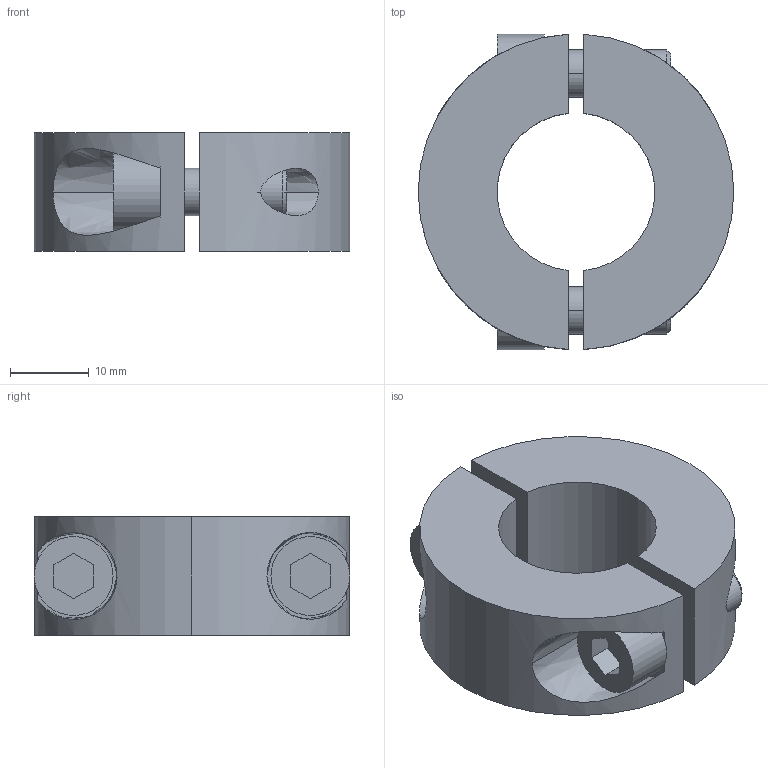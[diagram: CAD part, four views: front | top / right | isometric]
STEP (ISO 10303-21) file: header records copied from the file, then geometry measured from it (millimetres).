
FILE_DESCRIPTION (( 'STEP AP214' ), '1' );
FILE_NAME ('bague d''arret D20.STEP', '2017-04-06T07:50:58', ( '' ), ( '' ), 'SwSTEP 2.0', 'SolidWorks 2016', '' );
FILE_SCHEMA (( 'AUTOMOTIVE_DESIGN' ));
Length unit declared in the file: millimetre
Products named in the file (5): f2-320-20_01; f2-320-20_03; bague d''arret D20; f2-320-20_04; f2-320-20_02
Assembly tree (4 placements, depth 2):
  bague d''arret D20
    f2-320-20_01
    f2-320-20_02
    f2-320-20_03
    f2-320-20_04
Bounding box: 40 x 40 x 15 mm (x, y, z)
Volume: 12794.8 mm3; surface area: 7205.2 mm2
Topology: 4 solids, 4 shells, 58 faces, 132 edges, 88 vertices
Faces by surface type: plane 30, bspline 17, cylinder 11
Entity records: 2807 total; most frequent: CARTESIAN_POINT 677, DIRECTION 270, ORIENTED_EDGE 264, EDGE_CURVE 132, AXIS2_PLACEMENT_3D 97, VERTEX_POINT 88, LINE 76, VECTOR 76
